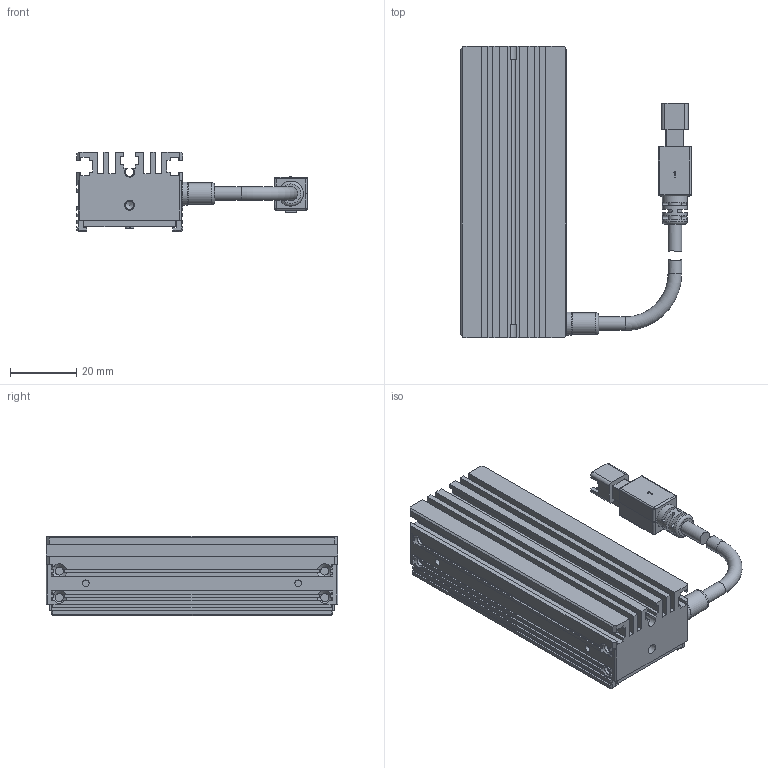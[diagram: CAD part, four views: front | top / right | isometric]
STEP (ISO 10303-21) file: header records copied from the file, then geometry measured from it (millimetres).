
FILE_DESCRIPTION (( 'STEP AP203' ), '1' );
FILE_NAME ('OPT-ULI8832-UV-V1.0U 尨砩芞.STEP', '2024-12-11T03:19:37', ( '' ), ( '' ), 'SwSTEP 2.0', 'SolidWorks 2016', '' );
FILE_SCHEMA (( 'CONFIG_CONTROL_DESIGN' ));
Length unit declared in the file: millimetre
Products named in the file (1): OPT-ULI8832-UV-V1.0U 尨砩芞
Bounding box: 69.6 x 88 x 24 mm (x, y, z)
Volume: 55038.1 mm3; surface area: 26202.2 mm2
Topology: 6 solids, 16 shells, 643 faces, 1658 edges, 1065 vertices
Faces by surface type: plane 443, cylinder 141, cone 30, bspline 21, torus 8
Full cylindrical faces by diameter (mm): 1.1 x2, 1.4 x4, 1.6 x9, 2 x11, 2.4 x7, 2.5 x2, 2.6 x2, 3 x2, 3.5 x1, 4.1 x4, 6.5 x1, 7 x1, 7.5 x1
Entity records: 19539 total; most frequent: CARTESIAN_POINT 4443, ORIENTED_EDGE 3088, DIRECTION 2991, EDGE_CURVE 1544, VECTOR 1087, LINE 1087, VERTEX_POINT 1032, AXIS2_PLACEMENT_3D 952
